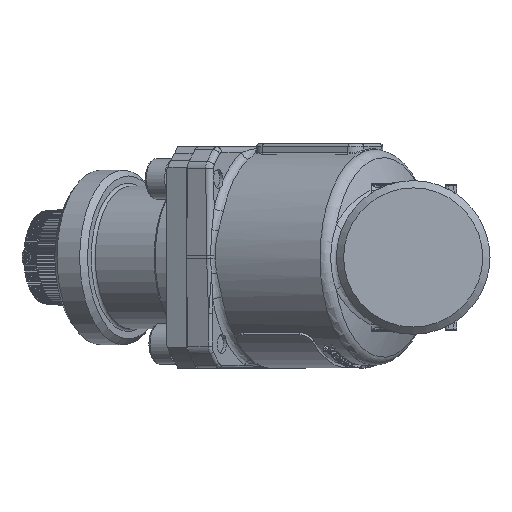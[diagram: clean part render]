
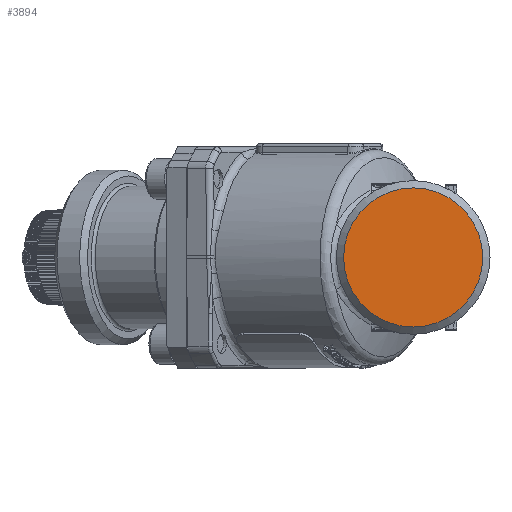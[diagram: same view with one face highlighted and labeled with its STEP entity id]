
A CAD part, left-side view. The second image highlights one B-rep face of the part: STEP entity #3894.
In plain terms, the highlighted planar face has unit normal (-1, 0, 0).
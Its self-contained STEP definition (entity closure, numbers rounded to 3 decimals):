
#3878=CARTESIAN_POINT('',(-24.0,40.239,-19.082));
#3879=DIRECTION('',(1.0,0.0,0.0));
#3880=DIRECTION('',(0.0,0.0,-1.0));
#3881=AXIS2_PLACEMENT_3D('',#3878,#3879,#3880);
#3882=PLANE('',#3881);
#3883=CARTESIAN_POINT('',(-24.0,11.95,0.));
#3884=VERTEX_POINT('',#3883);
#3885=CARTESIAN_POINT('',(-24.0,0.0,0.0));
#3886=DIRECTION('',(1.0,0.0,0.0));
#3887=DIRECTION('',(0.0,-1.0,0.0));
#3888=AXIS2_PLACEMENT_3D('',#3885,#3886,#3887);
#3889=CIRCLE('',#3888,11.95);
#3890=EDGE_CURVE('',#3884,#3884,#3889,.T.);
#3891=ORIENTED_EDGE('',*,*,#3890,.F.);
#3892=EDGE_LOOP('',(#3891));
#3893=FACE_OUTER_BOUND('',#3892,.T.);
#3894=ADVANCED_FACE('',(#3893),#3882,.F.);
